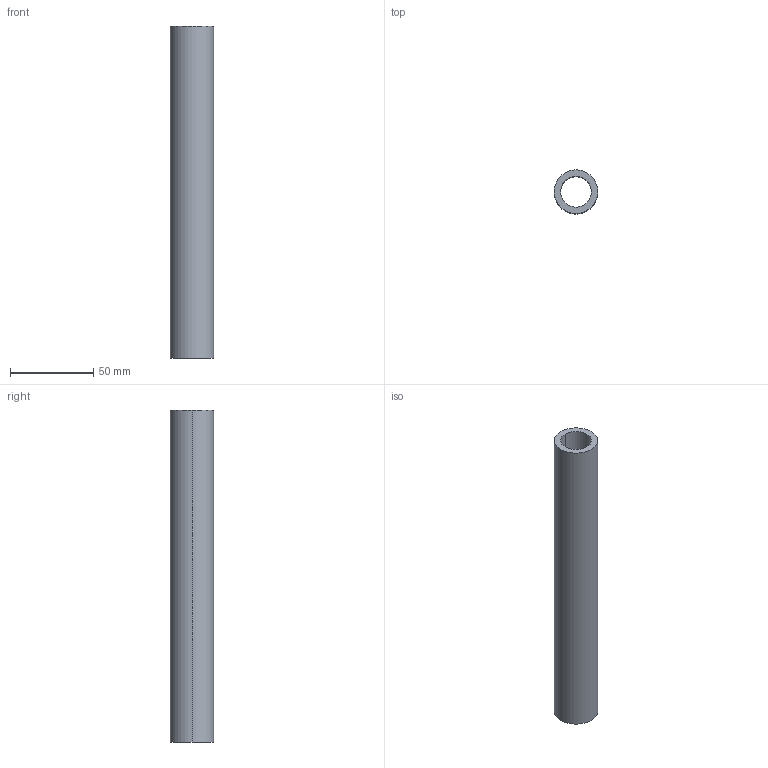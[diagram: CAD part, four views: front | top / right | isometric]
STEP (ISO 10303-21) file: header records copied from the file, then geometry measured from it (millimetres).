
FILE_DESCRIPTION (( 'STEP AP203' ), '1' );
FILE_NAME ('19-0408-24_outokumpu.step', '2015-08-11T09:39:31', ( '' ), ( '' ), 'SwSTEP 2.0', 'SolidWorks 2008', '' );
FILE_SCHEMA (( 'CONFIG_CONTROL_DESIGN' ));
Length unit declared in the file: millimetre
Products named in the file (1): 19-0408-24_outokumpu
Bounding box: 26.3 x 26.3 x 200 mm (x, y, z)
Volume: 53071 mm3; surface area: 28827.5 mm2
Topology: 1 solids, 1 shells, 12 faces, 26 edges, 16 vertices
Faces by surface type: cylinder 6, cone 4, plane 2
Entity records: 415 total; most frequent: DIRECTION 68, CARTESIAN_POINT 55, ORIENTED_EDGE 52, AXIS2_PLACEMENT_3D 29, EDGE_CURVE 26, VERTEX_POINT 16, CIRCLE 16, EDGE_LOOP 14
